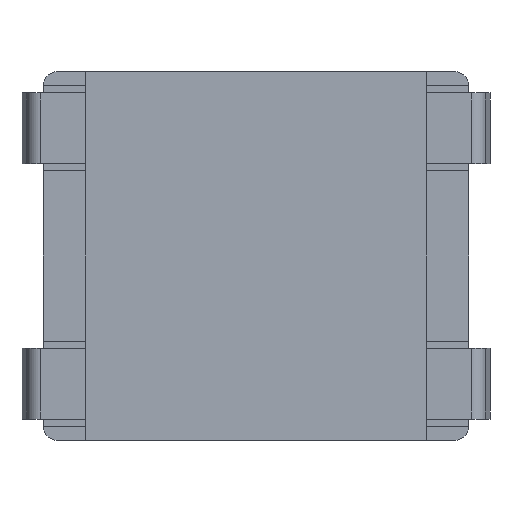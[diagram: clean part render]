
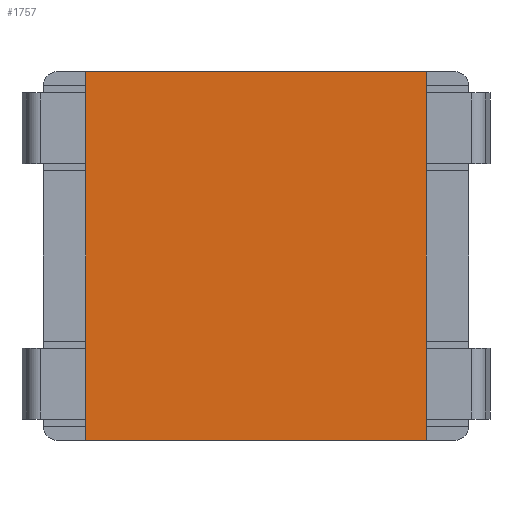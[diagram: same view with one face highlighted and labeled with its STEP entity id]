
A CAD part, front view. The second image highlights one B-rep face of the part: STEP entity #1757.
In plain terms, the highlighted planar face has unit normal (0, -1, 0).
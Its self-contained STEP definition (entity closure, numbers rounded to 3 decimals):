
#26=DIRECTION('',(0.,0.,-1.));
#27=VECTOR('',#26,2.6);
#28=CARTESIAN_POINT('',(-1.2,0.,1.3));
#29=LINE('',#28,#27);
#33=DIRECTION('',(1.,0.,0.));
#34=VECTOR('',#33,2.4);
#35=CARTESIAN_POINT('',(-1.2,0.,1.3));
#36=LINE('',#35,#34);
#40=DIRECTION('',(0.,0.,-1.));
#41=VECTOR('',#40,2.6);
#42=CARTESIAN_POINT('',(1.2,0.,1.3));
#43=LINE('',#42,#41);
#47=DIRECTION('',(-1.,0.,0.));
#48=VECTOR('',#47,2.4);
#49=CARTESIAN_POINT('',(1.2,0.,-1.3));
#50=LINE('',#49,#48);
#1590=CARTESIAN_POINT('',(-1.2,0.,1.3));
#1591=CARTESIAN_POINT('',(-1.2,0.,-1.3));
#1592=VERTEX_POINT('',#1590);
#1593=VERTEX_POINT('',#1591);
#1594=CARTESIAN_POINT('',(1.2,0.,1.3));
#1595=CARTESIAN_POINT('',(1.2,0.,-1.3));
#1596=VERTEX_POINT('',#1594);
#1597=VERTEX_POINT('',#1595);
#1742=CARTESIAN_POINT('',(0.,0.,0.));
#1743=DIRECTION('',(0.,1.,0.));
#1744=DIRECTION('',(1.,0.,0.));
#1745=AXIS2_PLACEMENT_3D('',#1742,#1743,#1744);
#1746=PLANE('',#1745);
#1748=ORIENTED_EDGE('',*,*,#1747,.F.);
#1750=ORIENTED_EDGE('',*,*,#1749,.T.);
#1752=ORIENTED_EDGE('',*,*,#1751,.T.);
#1754=ORIENTED_EDGE('',*,*,#1753,.T.);
#1755=EDGE_LOOP('',(#1748,#1750,#1752,#1754));
#1756=FACE_OUTER_BOUND('',#1755,.F.);
#1747=EDGE_CURVE('',#1592,#1593,#29,.T.);
#1749=EDGE_CURVE('',#1592,#1596,#36,.T.);
#1751=EDGE_CURVE('',#1596,#1597,#43,.T.);
#1753=EDGE_CURVE('',#1597,#1593,#50,.T.);
#1757=ADVANCED_FACE('',(#1756),#1746,.F.);
